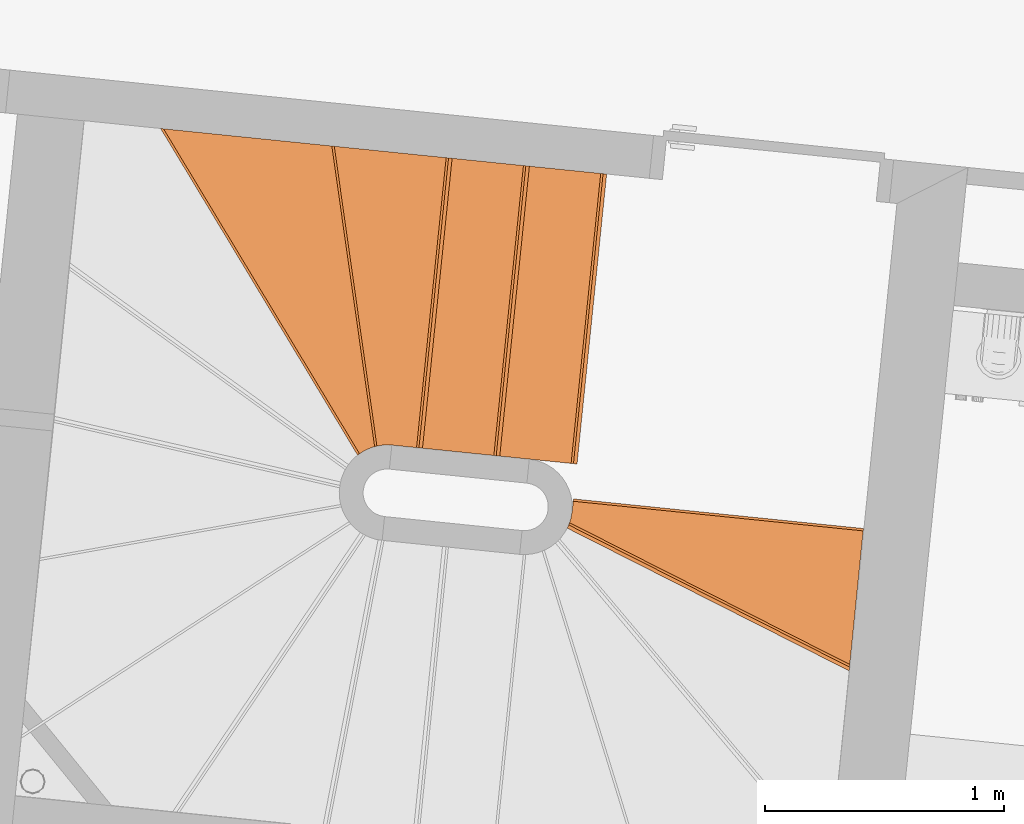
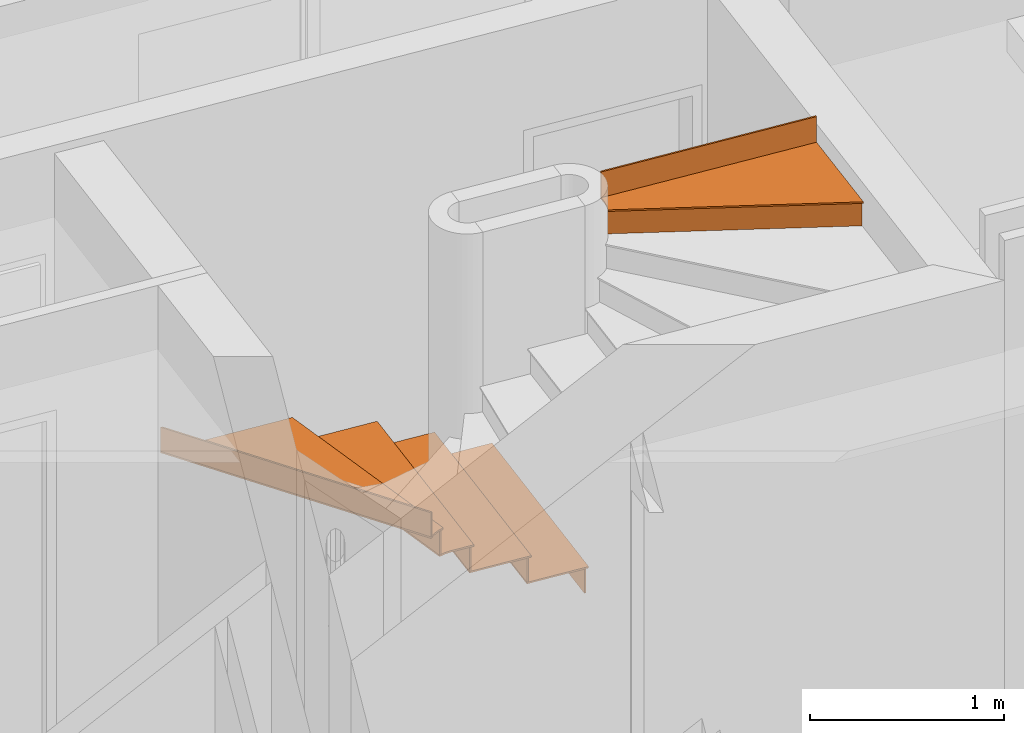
# One storey, part 170 of 171: 12 proxies, 1 element without a shape of its own.
"""IFC2X3 building model written with IfcOpenShell, lengths in millimetres."""

from ifc_helpers import new_model, entity, si_unit, converted_unit, derived_unit, money_unit, direction, frame, origin_with_axes, place, context, subcontext, project, spatial, faceted_brep, material, type_object, element, aggregate, save


model = new_model("IFC2X3")

# Units and contexts
model_context = context("Model", 3, precision=0.01, world=origin_with_axes(), true_north=direction((0.0, 1.0)))
body_context = subcontext(model_context, "Body", "Model", "MODEL_VIEW")
ifc_project = project(units=[si_unit("LENGTHUNIT", "METRE", prefix="MILLI"), si_unit("AREAUNIT", "SQUARE_METRE"), si_unit("VOLUMEUNIT", "CUBIC_METRE"), converted_unit("PLANEANGLEUNIT", "DEGREE", entity("IfcPlaneAngleMeasure", 0.0174532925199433), si_unit("PLANEANGLEUNIT", "RADIAN"), dimensions=[0, 0, 0, 0, 0, 0, 0]), money_unit("USD"), converted_unit("TIMEUNIT", "Year", entity("IfcTimeMeasure", 31557600.0), si_unit("TIMEUNIT", "SECOND"), dimensions=[0, 0, 1, 0, 0, 0, 0]), si_unit("MASSUNIT", "GRAM", prefix="KILO"), si_unit("THERMODYNAMICTEMPERATUREUNIT", "DEGREE_CELSIUS"), si_unit("LUMINOUSINTENSITYUNIT", "LUMEN"), si_unit("ENERGYUNIT", "JOULE", prefix="MEGA"), derived_unit("THERMALCONDUCTANCEUNIT", [(si_unit("POWERUNIT", "WATT"), 1), (si_unit("LENGTHUNIT", "METRE"), -1), (si_unit("THERMODYNAMICTEMPERATUREUNIT", "KELVIN"), -1)]), derived_unit("SPECIFICHEATCAPACITYUNIT", [(si_unit("ENERGYUNIT", "JOULE"), 1), (si_unit("MASSUNIT", "GRAM", prefix="KILO"), -1), (si_unit("THERMODYNAMICTEMPERATUREUNIT", "KELVIN"), -1)]), derived_unit("MASSDENSITYUNIT", [(si_unit("MASSUNIT", "GRAM", prefix="KILO"), 1), (si_unit("VOLUMEUNIT", "CUBIC_METRE"), -1)])], contexts=[model_context])

# Site, building, storey
site_placement = place(None, origin_with_axes())
site = spatial("IfcSite", under=ifc_project, at=site_placement, Name="Site", CompositionType="ELEMENT")
building_placement = place(site_placement, origin_with_axes())
building = spatial("IfcBuilding", under=site, at=building_placement, Name="Bâtiment", CompositionType="ELEMENT")
storey_placement = place(building_placement, frame((0.0, 0.0, 3000.0), z_axis=(0.0, 0.0, 1.0), x_axis=(1.0, 0.0, 0.0)))
storey = spatial("IfcBuildingStorey", under=building, at=storey_placement, Name="rdc", CompositionType="ELEMENT", Elevation=3000.0)

# Stair, proxies
stair_placement = place(storey_placement, frame((2227388.475510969, -615472.1219328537, 0.0), z_axis=(0.0, 0.0, 1.0), x_axis=(-0.9948232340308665, 0.1016205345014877, 0.0)))
stair = element("IfcStair", 1, at=stair_placement, inside=storey, Name="ESC-020", ShapeType="NOTDEFINED")
ifc_material = material(Name="Lame d'air 275581351")
building_element_proxy_type = type_object("IfcBuildingElementProxyType", Name="IfcBuildingElementProxy", PredefinedType="NOTDEFINED")
proxy_1_placement = place(stair_placement, frame((-0.000122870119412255, -610.0000000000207, 151.764705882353), z_axis=(0.0, 0.0, 1.0), x_axis=(-2.014264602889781e-07, -0.9999999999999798, 0.0)))
proxy_1 = element("IfcBuildingElementProxy", 2, at=proxy_1_placement, type_object=building_element_proxy_type, material=ifc_material, Name="C-MARCHE-332", context=body_context, shape_type="Brep", body=[
    faceted_brep([(609.9999999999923, 15.00000000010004, 0.0), (609.9999999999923, 25.00000000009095, 0.0), (-609.9999999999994, 24.99999999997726, 0.0), (-610.0000000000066, 14.99999999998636, 0.0), (609.9999999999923, 15.00000000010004, -151.764705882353), (609.9999999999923, 25.00000000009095, -151.764705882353), (-609.9999999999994, 24.99999999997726, -151.764705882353), (-610.0000000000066, 14.99999999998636, -151.764705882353)], [[[0, 1, 2, 3]], [[0, 4, 5, 1]], [[1, 5, 6, 2]], [[3, 2, 6, 7]], [[4, 0, 3, 7]], [[5, 4, 7, 6]]]),
])
proxy_2_placement = place(stair_placement, frame((325.1004432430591, -610.0000654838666, 313.5294117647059), z_axis=(0.0, 0.0, 1.0), x_axis=(-2.014264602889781e-07, -0.9999999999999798, 0.0)))
proxy_2 = element("IfcBuildingElementProxy", 3, at=proxy_2_placement, type_object=building_element_proxy_type, material=ifc_material, Name="C-MARCHE-333", context=body_context, shape_type="Brep", body=[
    faceted_brep([(609.9999999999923, 15.00000000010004, 0.0), (610.0000000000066, 25.00000000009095, 0.0), (-609.9999999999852, 25.00000000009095, 0.0), (-610.0000000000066, 15.00000000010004, 0.0), (609.9999999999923, 15.00000000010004, -151.764705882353), (610.0000000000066, 25.00000000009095, -151.764705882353), (-609.9999999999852, 25.00000000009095, -151.764705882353), (-610.0000000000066, 15.00000000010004, -151.764705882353)], [[[0, 1, 2, 3]], [[0, 4, 5, 1]], [[1, 5, 6, 2]], [[3, 2, 6, 7]], [[4, 0, 3, 7]], [[5, 4, 7, 6]]]),
])
proxy_3_placement = place(stair_placement, frame((973.3676057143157, -586.1824886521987, 637.0588235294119), z_axis=(0.0, 0.0, 1.0), x_axis=(0.2407289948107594, -0.9705923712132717, 0.0)))
proxy_3 = element("IfcBuildingElementProxy", 4, at=proxy_3_placement, type_object=building_element_proxy_type, material=ifc_material, Name="C-MARCHE-335", context=body_context, shape_type="Brep", body=[
    faceted_brep([(656.7418991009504, 15.00000000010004, 0.0), (659.2221287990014, 25.00000000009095, 0.0), (-611.3159759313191, 25.00000000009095, 0.0), (-610.5635345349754, 14.99999999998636, 0.0), (656.7418991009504, 15.00000000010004, -151.764705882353), (659.2221287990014, 25.00000000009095, -151.764705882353), (-611.3159759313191, 25.00000000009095, -151.764705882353), (-610.5635345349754, 14.99999999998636, -151.764705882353)], [[[0, 1, 2, 3]], [[0, 4, 5, 1]], [[1, 5, 6, 2]], [[3, 2, 6, 7]], [[4, 0, 3, 7]], [[5, 4, 7, 6]]]),
])
proxy_4_placement = place(stair_placement, frame((1265.005003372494, -447.5227900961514, 798.8235294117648), z_axis=(0.0, 0.0, 1.0), x_axis=(0.600813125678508, -0.7993895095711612, 0.0)))
proxy_4 = element("IfcBuildingElementProxy", 5, at=proxy_4_placement, type_object=building_element_proxy_type, material=ifc_material, Name="C-MARCHE-336", context=body_context, shape_type="Brep", body=[
    faceted_brep([(977.6082535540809, 14.99999999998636, 0.0), (985.124156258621, 24.99999999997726, 0.0), (-611.3159759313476, 24.99999999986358, 0.0), (-610.5635345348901, 14.99999999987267, 0.0), (977.6082535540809, 14.99999999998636, -151.764705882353), (985.124156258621, 24.99999999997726, -151.764705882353), (-611.3159759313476, 24.99999999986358, -151.764705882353), (-610.5635345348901, 14.99999999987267, -151.764705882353)], [[[0, 1, 2, 3]], [[0, 4, 5, 1]], [[1, 5, 6, 2]], [[3, 2, 6, 7]], [[4, 0, 3, 7]], [[5, 4, 7, 6]]]),
])
proxy_5_placement = place(stair_placement, frame((-556.1499030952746, 490.3074143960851, 2578.235294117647), z_axis=(0.0, 0.0, 1.0), x_axis=(-0.9335114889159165, 0.3585474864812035, 0.0)))
proxy_5 = element("IfcBuildingElementProxy", 6, at=proxy_5_placement, type_object=building_element_proxy_type, material=ifc_material, Name="C-MARCHE-347", context=body_context, shape_type="Brep", body=[
    faceted_brep([(706.5081019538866, 14.99999999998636, 0.0), (702.6442387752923, 24.99999999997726, 0.0), (-611.3159759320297, 24.99999999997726, 0.0), (-610.5635345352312, 15.0000000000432, 0.0), (706.5081019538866, 14.99999999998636, -151.7647058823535), (702.6442387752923, 24.99999999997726, -151.7647058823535), (-611.3159759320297, 24.99999999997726, -151.7647058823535), (-610.5635345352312, 15.0000000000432, -151.7647058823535)], [[[0, 1, 2, 3]], [[0, 4, 5, 1]], [[1, 5, 6, 2]], [[3, 2, 6, 7]], [[4, 0, 3, 7]], [[5, 4, 7, 6]]]),
])
proxy_6_placement = place(stair_placement, frame((-609.9999402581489, 171.8189697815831, 2750.0), z_axis=(0.0, 0.0, 1.0), x_axis=(-0.9999999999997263, 7.398341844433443e-07, 0.0)))
proxy_6 = element("IfcBuildingElementProxy", 7, at=proxy_6_placement, type_object=building_element_proxy_type, material=ifc_material, Name="C-MARCHE-348", context=body_context, shape_type="Brep", body=[
    faceted_brep([(610.0000000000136, 15.00000000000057, 0.0), (610.0000000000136, 25.00000000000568, 0.0), (-610.0000000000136, 25.00000000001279, 0.0), (-610.0000000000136, 15.00000000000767, 0.0), (610.0000000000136, 15.00000000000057, -161.7647058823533), (610.0000000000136, 25.00000000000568, -161.7647058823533), (-610.0000000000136, 25.00000000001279, -161.7647058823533), (-610.0000000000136, 15.00000000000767, -161.7647058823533)], [[[0, 1, 2, 3]], [[0, 4, 5, 1]], [[1, 5, 6, 2]], [[3, 2, 6, 7]], [[4, 0, 3, 7]], [[5, 4, 7, 6]]]),
])
proxy_7_placement = place(stair_placement, frame((-0.000122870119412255, -610.0000000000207, 161.7647058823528), z_axis=(0.0, 0.0, 1.0), x_axis=(-2.014264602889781e-07, -0.9999999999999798, 0.0)))
proxy_7 = element("IfcBuildingElementProxy", 8, at=proxy_7_placement, type_object=building_element_proxy_type, material=ifc_material, Name="MARCHE-332", context=body_context, shape_type="Brep", body=[
    faceted_brep([(-609.9999999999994, 0.0, -9.999999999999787), (609.9999999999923, 0.0, -9.999999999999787), (609.9999999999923, 0.0, 0.0), (-609.9999999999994, 0.0, 0.0), (-609.9999999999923, 350.1005682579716, -9.999999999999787), (609.9999999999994, 350.1005594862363, -9.999999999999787), (609.9999999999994, 350.1005594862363, 0.0), (-609.9999999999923, 350.1005682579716, 0.0)], [[[0, 1, 2, 3]], [[0, 4, 5, 1]], [[1, 5, 6, 2]], [[3, 2, 6, 7]], [[4, 0, 3, 7]], [[5, 4, 7, 6]]]),
])
proxy_8_placement = place(stair_placement, frame((325.1004432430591, -610.0000654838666, 323.5294117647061), z_axis=(0.0, 0.0, 1.0), x_axis=(-2.014264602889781e-07, -0.9999999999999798, 0.0)))
proxy_8 = element("IfcBuildingElementProxy", 9, at=proxy_8_placement, type_object=building_element_proxy_type, material=ifc_material, Name="MARCHE-333", context=body_context, shape_type="Brep", body=[
    faceted_brep([(-609.9999999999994, 1.13686837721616e-10, -9.999999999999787), (610.0000000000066, 0.0, -9.999999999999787), (610.0000000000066, 0.0, 0.0), (-609.9999999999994, 1.13686837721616e-10, 0.0), (-609.9999999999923, 350.1005682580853, -9.999999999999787), (609.9999999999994, 350.1005594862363, -9.999999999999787), (609.9999999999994, 350.1005594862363, 0.0), (-609.9999999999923, 350.1005682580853, 0.0)], [[[0, 1, 2, 3]], [[0, 4, 5, 1]], [[1, 5, 6, 2]], [[3, 2, 6, 7]], [[4, 0, 3, 7]], [[5, 4, 7, 6]]]),
])
proxy_9_placement = place(stair_placement, frame((650.2010093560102, -610.0001309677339, 485.2941176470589), z_axis=(0.0, 0.0, 1.0), x_axis=(-2.014264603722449e-07, -0.9999999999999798, 0.0)))
proxy_9 = element("IfcBuildingElementProxy", 10, at=proxy_9_placement, type_object=building_element_proxy_type, material=ifc_material, Name="MARCHE-334", context=body_context, shape_type="Brep", body=[
    faceted_brep([(-609.9999999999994, 0.0, -9.999999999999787), (609.9999999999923, -1.13686837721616e-10, -9.999999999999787), (609.9999999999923, -1.13686837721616e-10, 0.0), (-609.9999999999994, 0.0, 0.0), (-609.9999999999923, 128.196504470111, -9.999999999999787), (-613.3837442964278, 164.8225887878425, -9.999999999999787), (-623.4204307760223, 200.2088107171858, -9.999999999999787), (610.0000000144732, 506.1254089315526, -9.999999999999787), (609.9999999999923, 128.196503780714, -9.999999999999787), (609.9999999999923, 128.196503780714, 0.0), (610.0000000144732, 506.1254089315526, 0.0), (-623.4204307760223, 200.2088107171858, 0.0), (-613.3837442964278, 164.8225887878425, 0.0), (-609.9999999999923, 128.196504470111, 0.0)], [[[0, 1, 2, 3]], [[0, 4, 5, 6, 7, 8, 1]], [[1, 8, 9, 2]], [[3, 2, 9, 10, 11, 12, 13]], [[4, 0, 3, 13]], [[5, 4, 13, 12]], [[6, 5, 12, 11]], [[7, 6, 11, 10]], [[8, 7, 10, 9]]]),
])
proxy_10_placement = place(stair_placement, frame((650.2010093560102, -610.0001309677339, 475.2941176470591), z_axis=(0.0, 0.0, 1.0), x_axis=(-2.014264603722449e-07, -0.9999999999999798, 0.0)))
proxy_10 = element("IfcBuildingElementProxy", 11, at=proxy_10_placement, type_object=building_element_proxy_type, material=ifc_material, Name="C-MARCHE-334", context=body_context, shape_type="Brep", body=[
    faceted_brep([(609.9999999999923, 14.99999999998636, 0.0), (609.9999999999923, 24.99999999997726, 0.0), (-610.0000000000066, 24.99999999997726, 0.0), (-610.0000000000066, 14.99999999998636, 0.0), (609.9999999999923, 14.99999999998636, -151.764705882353), (609.9999999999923, 24.99999999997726, -151.764705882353), (-610.0000000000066, 24.99999999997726, -151.764705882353), (-610.0000000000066, 14.99999999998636, -151.764705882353)], [[[0, 1, 2, 3]], [[0, 4, 5, 1]], [[1, 5, 6, 2]], [[3, 2, 6, 7]], [[4, 0, 3, 7]], [[5, 4, 7, 6]]]),
])
proxy_11_placement = place(stair_placement, frame((973.3676057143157, -586.1824886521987, 647.0588235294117), z_axis=(0.0, 0.0, 1.0), x_axis=(0.2407289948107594, -0.9705923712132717, 0.0)))
proxy_11 = element("IfcBuildingElementProxy", 12, at=proxy_11_placement, type_object=building_element_proxy_type, material=ifc_material, Name="MARCHE-335", context=body_context, shape_type="Brep", body=[
    faceted_brep([(-610.0000000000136, 2.273736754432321e-10, -9.999999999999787), (653.0215545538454, 1.13686837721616e-10, -9.999999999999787), (653.0215545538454, 1.13686837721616e-10, 0.0), (-610.0000000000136, 2.273736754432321e-10, 0.0), (-613.0741059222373, 34.92373452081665, -9.999999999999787), (-622.201882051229, 68.77341787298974, -9.999999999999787), (-637.1026110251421, 100.5080304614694, -9.999999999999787), (832.6768914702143, 724.3495917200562, -9.999999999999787), (832.6768914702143, 724.3495917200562, 0.0), (-637.1026110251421, 100.5080304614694, 0.0), (-622.201882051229, 68.77341787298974, 0.0), (-613.0741059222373, 34.92373452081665, 0.0)], [[[0, 1, 2, 3]], [[0, 4, 5, 6, 7, 1]], [[1, 7, 8, 2]], [[3, 2, 8, 9, 10, 11]], [[4, 0, 3, 11]], [[5, 4, 11, 10]], [[6, 5, 10, 9]], [[7, 6, 9, 8]]]),
])
proxy_12_placement = place(stair_placement, frame((-556.1499030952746, 490.3074143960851, 2588.235294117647), z_axis=(0.0, 0.0, 1.0), x_axis=(-0.9335114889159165, 0.3585474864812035, 0.0)))
proxy_12 = element("IfcBuildingElementProxy", 13, at=proxy_12_placement, type_object=building_element_proxy_type, material=ifc_material, Name="MARCHE-347", context=body_context, shape_type="Brep", body=[
    faceted_brep([(-610.0000000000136, 0.0, -9.999999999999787), (712.3038967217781, 0.0, -9.999999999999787), (712.3038967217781, 0.0, 0.0), (-610.0000000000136, 0.0, 0.0), (-613.351096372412, 36.45046483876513, -9.999999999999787), (-623.2920390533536, 71.6789177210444, -9.999999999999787), (-633.3657729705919, 97.90687214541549, -9.999999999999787), (-642.3294428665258, 121.2446659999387, -9.999999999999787), (496.554897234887, 558.6717569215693, -9.999999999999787), (505.5185671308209, 535.3339630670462, -9.999999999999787), (515.5923685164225, 509.1058329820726, -9.999999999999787), (515.5923685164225, 509.1058329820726, 0.0), (505.5185671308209, 535.3339630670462, 0.0), (496.554897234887, 558.6717569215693, 0.0), (-642.3294428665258, 121.2446659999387, 0.0), (-633.3657729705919, 97.90687214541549, 0.0), (-623.2920390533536, 71.6789177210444, 0.0), (-613.351096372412, 36.45046483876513, 0.0)], [[[0, 1, 2, 3]], [[0, 4, 5, 6, 7, 8, 9, 10, 1]], [[1, 10, 11, 2]], [[3, 2, 11, 12, 13, 14, 15, 16, 17]], [[4, 0, 3, 17]], [[5, 4, 17, 16]], [[6, 5, 16, 15]], [[7, 6, 15, 14]], [[8, 7, 14, 13]], [[9, 8, 13, 12]], [[10, 9, 12, 11]]]),
])
aggregate(stair, [proxy_1, proxy_2, proxy_3, proxy_4, proxy_5, proxy_6, proxy_7, proxy_8, proxy_9, proxy_10, proxy_11, proxy_12])

save(model, "model.ifc")
